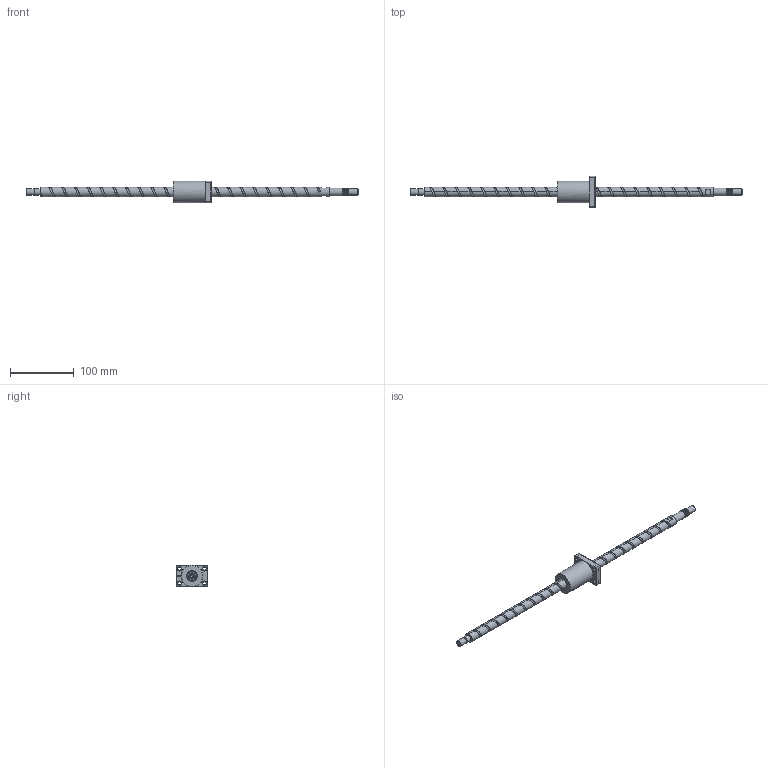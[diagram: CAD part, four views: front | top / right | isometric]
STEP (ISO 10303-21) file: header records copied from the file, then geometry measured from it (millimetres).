
FILE_DESCRIPTION (( 'STEP AP203' ), '1' );
FILE_NAME ('XSVR01520A1DGC5-521-P1.step', '2024-06-03T05:37:08', ( '' ), ( '' ), 'SwSTEP 2.0', 'SolidWorks 2022', '' );
FILE_SCHEMA (( 'CONFIG_CONTROL_DESIGN' ));
Length unit declared in the file: millimetre
Products named in the file (1): XSVR01520A1DGC5-521-P1
Bounding box: 521 x 50 x 34 mm (x, y, z)
Volume: 129047.8 mm3; surface area: 39399.4 mm2
Topology: 2 solids, 2 shells, 152 faces, 410 edges, 268 vertices
Faces by surface type: cylinder 75, plane 43, cone 15, bspline 10, torus 9
Full cylindrical faces by diameter (mm): 4 x1, 4.2 x15, 5 x6, 5.5 x4, 9.5 x4, 9.6 x1, 10 x3, 12 x9, 15 x22, 17 x1, 34 x1
Entity records: 16350 total; most frequent: CARTESIAN_POINT 14222, ORIENTED_EDGE 410, DIRECTION 391, EDGE_CURVE 205, AXIS2_PLACEMENT_3D 168, EDGE_LOOP 153, VERTEX_POINT 150, FACE_OUTER_BOUND 120
